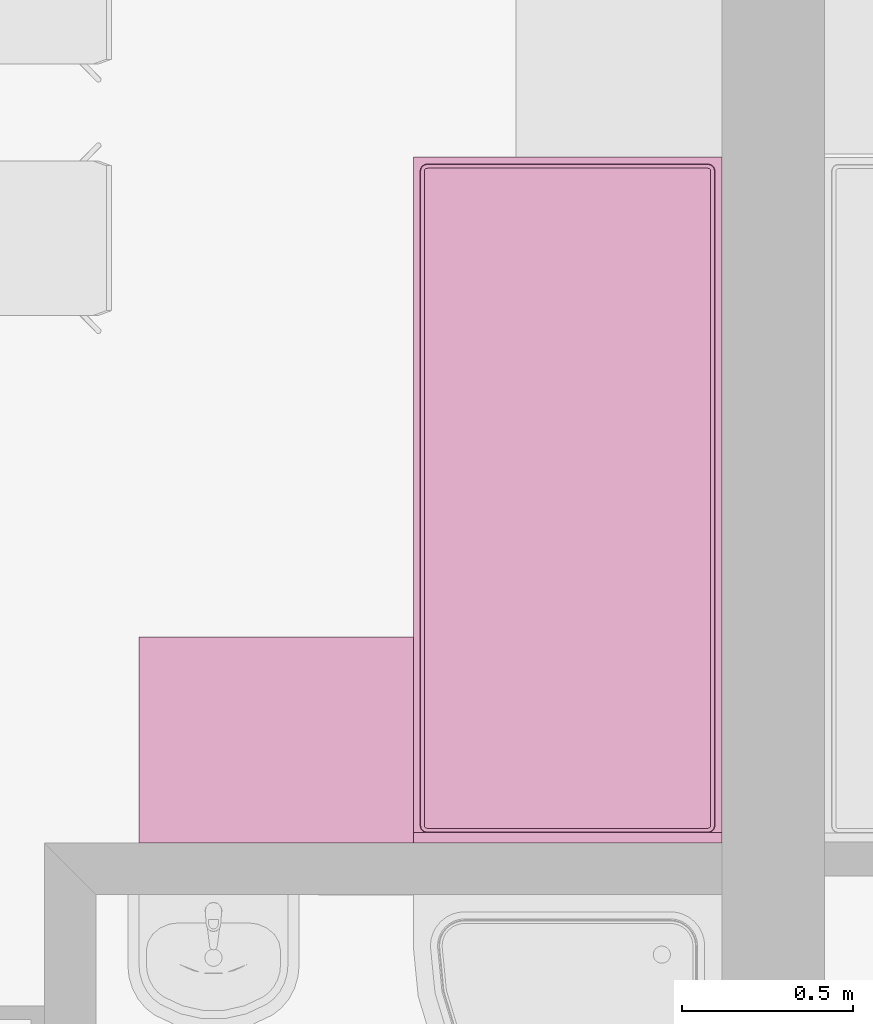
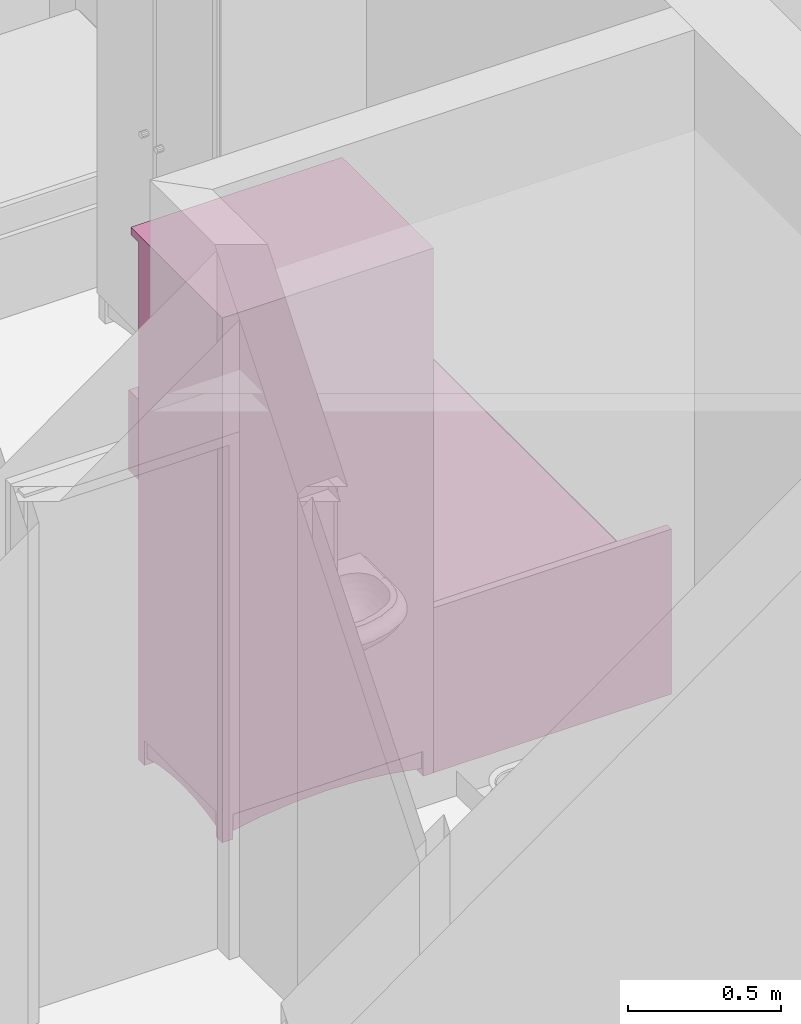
# One storey, part 136 of 172: 2 furnishings.
"""IFC2X3 building model written with IfcOpenShell, lengths in millimetres."""

from ifc_helpers import new_model, entity, si_unit, converted_unit, money_unit, direction, frame, origin_with_axes, place, context, subcontext, project, spatial, faceted_brep, source, transform, mapped, material, material_list, type_object, element, save


model = new_model("IFC2X3")

# Units and contexts
model_context = context("Model", 3, precision=1e-05, world=origin_with_axes(), true_north=direction((0.0, 1.0)))
body_context = subcontext(model_context, "Body", "Model", "MODEL_VIEW")
ifc_project = project(units=[si_unit("LENGTHUNIT", "METRE", prefix="MILLI"), si_unit("AREAUNIT", "SQUARE_METRE"), si_unit("VOLUMEUNIT", "CUBIC_METRE"), converted_unit("PLANEANGLEUNIT", "DEGREE", entity("IfcPlaneAngleMeasure", 0.0174532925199), si_unit("PLANEANGLEUNIT", "RADIAN"), dimensions=[0, 0, 0, 0, 0, 0, 0]), si_unit("SOLIDANGLEUNIT", "STERADIAN"), money_unit("USD"), converted_unit("TIMEUNIT", "Year", entity("IfcTimeMeasure", 31556926.0), si_unit("TIMEUNIT", "SECOND"), dimensions=[0, 0, 0, 0, 0, 0, 0]), si_unit("MASSUNIT", "GRAM"), si_unit("THERMODYNAMICTEMPERATUREUNIT", "DEGREE_CELSIUS"), si_unit("LUMINOUSINTENSITYUNIT", "LUMEN")], contexts=[model_context])

# Site, building, storey
site_placement = place(None, origin_with_axes())
site = spatial("IfcSite", under=ifc_project, at=site_placement, Name="Site", CompositionType="ELEMENT")
building_placement = place(site_placement, origin_with_axes())
building = spatial("IfcBuilding", under=site, at=building_placement, Name="Building", CompositionType="ELEMENT")
storey_placement = place(building_placement, frame((0.0, 0.0, 3200.0), z_axis=(0.0, 0.0, 1.0), x_axis=(1.0, 0.0, 0.0)))
storey = spatial("IfcBuildingStorey", under=building, at=storey_placement, Name="3KORRUS", CompositionType="ELEMENT", Elevation=3200.0)

# Furnishings
ifc_material = material(Name="Background")
ifc_material_list = material_list([ifc_material])
furnishing_element_type_1 = type_object("IfcFurnishingElementType", Name="Cupboard 19")
shared_shape_1 = source(origin_with_axes(), body_context, "Body", "Brep", [
    faceted_brep([(-780.0, 600.0, 120.0), (-780.0, 580.0, 120.0), (-780.0, 580.0, 2050.0), (-780.0, 600.0, 2050.0), (-20.0, 600.0, 120.0), (-20.0, 580.0, 120.0), (-20.0, 580.0, 2050.0), (-20.0, 600.0, 2050.0)], [[[0, 1, 2, 3]], [[0, 4, 5, 1]], [[1, 5, 6, 2]], [[3, 2, 6, 7]], [[4, 0, 3, 7]], [[5, 4, 7, 6]]]),
    faceted_brep([(0.0, 50.0, 100.0), (-20.0, 50.0, 100.0), (-20.0, 600.0, 100.0), (0.0, 600.0, 100.0), (0.0, 50.0, 2070.0), (-20.0, 50.0, 2070.0), (-20.0, 600.0, 2070.0), (0.0, 600.0, 2070.0)], [[[0, 1, 2, 3]], [[1, 0, 4, 5]], [[2, 1, 5, 6]], [[3, 2, 6, 7]], [[0, 3, 7, 4]], [[5, 4, 7, 6]]]),
    faceted_brep([(-780.0, 50.0, 100.0), (-800.0, 50.0, 100.0), (-800.0, 600.0, 100.0), (-780.0, 600.0, 100.0), (-780.0, 50.0, 2070.0), (-800.0, 50.0, 2070.0), (-800.0, 600.0, 2070.0), (-780.0, 600.0, 2070.0)], [[[0, 1, 2, 3]], [[1, 0, 4, 5]], [[2, 1, 5, 6]], [[3, 2, 6, 7]], [[0, 3, 7, 4]], [[5, 4, 7, 6]]]),
    faceted_brep([(-20.0, 50.0, 100.0), (-780.0, 50.0, 100.0), (-780.0, 600.0, 100.0), (-20.0, 600.0, 100.0), (-20.0, 50.0, 120.0), (-780.0, 50.0, 120.0), (-780.0, 600.0, 120.0), (-20.0, 600.0, 120.0)], [[[0, 1, 2, 3]], [[1, 0, 4, 5]], [[2, 1, 5, 6]], [[3, 2, 6, 7]], [[0, 3, 7, 4]], [[5, 4, 7, 6]]]),
    faceted_brep([(-20.0, 50.0, 2050.0), (-780.0, 50.0, 2050.0), (-780.0, 600.0, 2050.0), (-20.0, 600.0, 2050.0), (-20.0, 50.0, 2070.0), (-780.0, 50.0, 2070.0), (-780.0, 600.0, 2070.0), (-20.0, 600.0, 2070.0)], [[[0, 1, 2, 3]], [[1, 0, 4, 5]], [[2, 1, 5, 6]], [[3, 2, 6, 7]], [[0, 3, 7, 4]], [[5, 4, 7, 6]]]),
    faceted_brep([(0.0, 600.0, 2070.0), (0.0, 600.0, 2100.0), (0.0, 0.0, 2100.0), (0.0, 0.0, 2070.0), (-800.0, 600.0, 2070.0), (-800.0, 600.0, 2100.0), (-800.0, 0.0, 2100.0), (-800.0, 0.0, 2070.0)], [[[0, 1, 2, 3]], [[4, 5, 1, 0]], [[1, 5, 6, 2]], [[3, 2, 6, 7]], [[0, 3, 7, 4]], [[7, 6, 5, 4]]]),
    faceted_brep([(-760.0, 590.0, 25.0), (-640.962, 590.0, 45.8), (-640.962, 570.0, 45.8), (-760.0, 570.0, 25.0), (-760.0, 590.0, 100.0), (-40.0, 590.0, 100.0), (-40.0, 590.0, 25.0), (-159.038, 590.0, 45.8), (-279.23, 590.0, 58.32), (-400.0, 590.0, 62.5), (-520.77, 590.0, 58.32), (-520.77, 570.0, 58.32), (-400.0, 570.0, 62.5), (-279.23, 570.0, 58.32), (-159.038, 570.0, 45.8), (-40.0, 570.0, 25.0), (-40.0, 570.0, 100.0), (-760.0, 570.0, 100.0)], [[[0, 1, 2, 3]], [[0, 4, 5, 6, 7, 8, 9, 10, 1]], [[1, 10, 11, 2]], [[3, 2, 11, 12, 13, 14, 15, 16, 17]], [[4, 0, 3, 17]], [[5, 4, 17, 16]], [[6, 5, 16, 15]], [[7, 6, 15, 14]], [[8, 7, 14, 13]], [[9, 8, 13, 12]], [[10, 9, 12, 11]]]),
    faceted_brep([(-760.0, 80.0, 25.0), (-640.962, 80.0, 45.8), (-640.962, 60.0, 45.8), (-760.0, 60.0, 25.0), (-760.0, 80.0, 100.0), (-40.0, 80.0, 100.0), (-40.0, 80.0, 25.0), (-159.038, 80.0, 45.8), (-279.23, 80.0, 58.32), (-400.0, 80.0, 62.5), (-520.77, 80.0, 58.32), (-520.77, 60.0, 58.32), (-400.0, 60.0, 62.5), (-279.23, 60.0, 58.32), (-159.038, 60.0, 45.8), (-40.0, 60.0, 25.0), (-40.0, 60.0, 100.0), (-760.0, 60.0, 100.0)], [[[0, 1, 2, 3]], [[0, 4, 5, 6, 7, 8, 9, 10, 1]], [[1, 10, 11, 2]], [[3, 2, 11, 12, 13, 14, 15, 16, 17]], [[4, 0, 3, 17]], [[5, 4, 17, 16]], [[6, 5, 16, 15]], [[7, 6, 15, 14]], [[8, 7, 14, 13]], [[9, 8, 13, 12]], [[10, 9, 12, 11]]]),
    faceted_brep([(-790.0, 90.0, 25.0), (-790.0, 141.266, 38.072), (-770.0, 141.266, 38.072), (-770.0, 90.0, 25.0), (-790.0, 90.0, 100.0), (-790.0, 560.0, 100.0), (-790.0, 560.0, 25.0), (-790.0, 508.734, 38.072), (-790.0, 456.752, 47.92), (-790.0, 404.257, 54.508), (-790.0, 351.453, 57.808), (-790.0, 298.547, 57.808), (-790.0, 245.743, 54.508), (-790.0, 193.248, 47.92), (-770.0, 193.248, 47.92), (-770.0, 245.743, 54.508), (-770.0, 298.547, 57.808), (-770.0, 351.453, 57.808), (-770.0, 404.257, 54.508), (-770.0, 456.752, 47.92), (-770.0, 508.734, 38.072), (-770.0, 560.0, 25.0), (-770.0, 560.0, 100.0), (-770.0, 90.0, 100.0)], [[[0, 1, 2, 3]], [[0, 4, 5, 6, 7, 8, 9, 10, 11, 12, 13, 1]], [[1, 13, 14, 2]], [[3, 2, 14, 15, 16, 17, 18, 19, 20, 21, 22, 23]], [[4, 0, 3, 23]], [[5, 4, 23, 22]], [[6, 5, 22, 21]], [[7, 6, 21, 20]], [[8, 7, 20, 19]], [[9, 8, 19, 18]], [[10, 9, 18, 17]], [[11, 10, 17, 16]], [[12, 11, 16, 15]], [[13, 12, 15, 14]]]),
    faceted_brep([(-30.0, 90.0, 25.0), (-30.0, 141.266, 38.072), (-10.0, 141.266, 38.072), (-10.0, 90.0, 25.0), (-30.0, 90.0, 100.0), (-30.0, 560.0, 100.0), (-30.0, 560.0, 25.0), (-30.0, 508.734, 38.072), (-30.0, 456.752, 47.92), (-30.0, 404.257, 54.508), (-30.0, 351.453, 57.808), (-30.0, 298.547, 57.808), (-30.0, 245.743, 54.508), (-30.0, 193.248, 47.92), (-10.0, 193.248, 47.92), (-10.0, 245.743, 54.508), (-10.0, 298.547, 57.808), (-10.0, 351.453, 57.808), (-10.0, 404.257, 54.508), (-10.0, 456.752, 47.92), (-10.0, 508.734, 38.072), (-10.0, 560.0, 25.0), (-10.0, 560.0, 100.0), (-10.0, 90.0, 100.0)], [[[0, 1, 2, 3]], [[0, 4, 5, 6, 7, 8, 9, 10, 11, 12, 13, 1]], [[1, 13, 14, 2]], [[3, 2, 14, 15, 16, 17, 18, 19, 20, 21, 22, 23]], [[4, 0, 3, 23]], [[5, 4, 23, 22]], [[6, 5, 22, 21]], [[7, 6, 21, 20]], [[8, 7, 20, 19]], [[9, 8, 19, 18]], [[10, 9, 18, 17]], [[11, 10, 17, 16]], [[12, 11, 16, 15]], [[13, 12, 15, 14]]]),
    faceted_brep([(-760.0, 560.0, 0.0), (-760.0, 600.0, 0.0), (-760.0, 600.0, 100.0), (-760.0, 560.0, 100.0), (-800.0, 560.0, 0.0), (-800.0, 600.0, 0.0), (-800.0, 600.0, 100.0), (-800.0, 560.0, 100.0)], [[[0, 1, 2, 3]], [[0, 4, 5, 1]], [[1, 5, 6, 2]], [[3, 2, 6, 7]], [[4, 0, 3, 7]], [[5, 4, 7, 6]]]),
    faceted_brep([(0.0, 560.0, 0.0), (0.0, 600.0, 0.0), (0.0, 600.0, 100.0), (0.0, 560.0, 100.0), (-40.0, 560.0, 0.0), (-40.0, 600.0, 0.0), (-40.0, 600.0, 100.0), (-40.0, 560.0, 100.0)], [[[0, 1, 2, 3]], [[0, 4, 5, 1]], [[1, 5, 6, 2]], [[3, 2, 6, 7]], [[4, 0, 3, 7]], [[5, 4, 7, 6]]]),
    faceted_brep([(-760.0, 50.0, 0.0), (-760.0, 90.0, 0.0), (-760.0, 90.0, 100.0), (-760.0, 50.0, 100.0), (-800.0, 50.0, 0.0), (-800.0, 90.0, 0.0), (-800.0, 90.0, 100.0), (-800.0, 50.0, 100.0)], [[[0, 1, 2, 3]], [[0, 4, 5, 1]], [[1, 5, 6, 2]], [[3, 2, 6, 7]], [[4, 0, 3, 7]], [[5, 4, 7, 6]]]),
    faceted_brep([(0.0, 50.0, 0.0), (0.0, 90.0, 0.0), (0.0, 90.0, 100.0), (0.0, 50.0, 100.0), (-40.0, 50.0, 0.0), (-40.0, 90.0, 0.0), (-40.0, 90.0, 100.0), (-40.0, 50.0, 100.0)], [[[0, 1, 2, 3]], [[0, 4, 5, 1]], [[1, 5, 6, 2]], [[3, 2, 6, 7]], [[4, 0, 3, 7]], [[5, 4, 7, 6]]]),
    faceted_brep([(-780.0, 580.0, 587.5), (-780.0, 50.0, 587.5), (-780.0, 50.0, 607.5), (-780.0, 580.0, 607.5), (-20.0, 580.0, 587.5), (-20.0, 50.0, 587.5), (-20.0, 50.0, 607.5), (-20.0, 580.0, 607.5)], [[[0, 1, 2, 3]], [[0, 4, 5, 1]], [[1, 5, 6, 2]], [[3, 2, 6, 7]], [[4, 0, 3, 7]], [[5, 4, 7, 6]]]),
    faceted_brep([(-780.0, 580.0, 1075.0), (-780.0, 50.0, 1075.0), (-780.0, 50.0, 1095.0), (-780.0, 580.0, 1095.0), (-20.0, 580.0, 1075.0), (-20.0, 50.0, 1075.0), (-20.0, 50.0, 1095.0), (-20.0, 580.0, 1095.0)], [[[0, 1, 2, 3]], [[0, 4, 5, 1]], [[1, 5, 6, 2]], [[3, 2, 6, 7]], [[4, 0, 3, 7]], [[5, 4, 7, 6]]]),
    faceted_brep([(-780.0, 580.0, 1562.5), (-780.0, 50.0, 1562.5), (-780.0, 50.0, 1582.5), (-780.0, 580.0, 1582.5), (-20.0, 580.0, 1562.5), (-20.0, 50.0, 1562.5), (-20.0, 50.0, 1582.5), (-20.0, 580.0, 1582.5)], [[[0, 1, 2, 3]], [[0, 4, 5, 1]], [[1, 5, 6, 2]], [[3, 2, 6, 7]], [[4, 0, 3, 7]], [[5, 4, 7, 6]]]),
    faceted_brep([(-789.5, 50.0, 110.5), (-789.5, 50.0, 2059.5), (-400.5, 50.0, 2059.5), (-400.5, 50.0, 110.5), (-789.5, 40.0, 110.5), (-789.5, 40.0, 2059.5), (-400.5, 40.0, 2059.5), (-400.5, 40.0, 110.5), (-779.5, 30.0, 120.5), (-779.5, 30.0, 2049.5), (-410.5, 30.0, 2049.5), (-410.5, 30.0, 120.5)], [[[0, 1, 2, 3]], [[1, 0, 4, 5]], [[2, 1, 5, 6]], [[3, 2, 6, 7]], [[0, 3, 7, 4]], [[5, 4, 8, 9]], [[6, 5, 9, 10]], [[7, 6, 10, 11]], [[4, 7, 11, 8]], [[10, 9, 8, 11]]]),
    faceted_brep([(-399.5, 50.0, 110.5), (-399.5, 50.0, 2059.5), (-10.5, 50.0, 2059.5), (-10.5, 50.0, 110.5), (-399.5, 40.0, 110.5), (-399.5, 40.0, 2059.5), (-10.5, 40.0, 2059.5), (-10.5, 40.0, 110.5), (-389.5, 30.0, 120.5), (-389.5, 30.0, 2049.5), (-20.5, 30.0, 2049.5), (-20.5, 30.0, 120.5)], [[[0, 1, 2, 3]], [[1, 0, 4, 5]], [[2, 1, 5, 6]], [[3, 2, 6, 7]], [[0, 3, 7, 4]], [[5, 4, 8, 9]], [[6, 5, 9, 10]], [[7, 6, 10, 11]], [[4, 7, 11, 8]], [[10, 9, 8, 11]]]),
    faceted_brep([(-339.608, 30.0, 954.0), (-344.0, 30.0, 949.608), (-350.0, 30.0, 948.0), (-356.0, 30.0, 949.608), (-360.392, 30.0, 954.0), (-362.0, 30.0, 960.0), (-360.392, 30.0, 966.0), (-356.0, 30.0, 970.392), (-350.0, 30.0, 972.0), (-344.0, 30.0, 970.392), (-339.608, 30.0, 966.0), (-338.0, 30.0, 960.0), (-339.608, 5.0, 954.0), (-344.0, 5.0, 949.608), (-350.0, 5.0, 948.0), (-356.0, 5.0, 949.608), (-360.392, 5.0, 954.0), (-362.0, 5.0, 960.0), (-360.392, 5.0, 966.0), (-356.0, 5.0, 970.392), (-350.0, 5.0, 972.0), (-344.0, 5.0, 970.392), (-339.608, 5.0, 966.0), (-338.0, 5.0, 960.0)], [[[0, 1, 2, 3, 4, 5, 6, 7, 8, 9, 10, 11]], [[1, 0, 12, 13]], [[2, 1, 13, 14]], [[3, 2, 14, 15]], [[4, 3, 15, 16]], [[5, 4, 16, 17]], [[6, 5, 17, 18]], [[7, 6, 18, 19]], [[8, 7, 19, 20]], [[9, 8, 20, 21]], [[10, 9, 21, 22]], [[11, 10, 22, 23]], [[0, 11, 23, 12]], [[12, 23, 22, 21, 20, 19, 18, 17, 16, 15, 14, 13]]]),
    faceted_brep([(-460.392, 30.0, 954.0), (-462.0, 30.0, 960.0), (-460.392, 30.0, 966.0), (-456.0, 30.0, 970.392), (-450.0, 30.0, 972.0), (-444.0, 30.0, 970.392), (-439.608, 30.0, 966.0), (-438.0, 30.0, 960.0), (-439.608, 30.0, 954.0), (-444.0, 30.0, 949.608), (-450.0, 30.0, 948.0), (-456.0, 30.0, 949.608), (-460.392, 5.0, 954.0), (-462.0, 5.0, 960.0), (-460.392, 5.0, 966.0), (-456.0, 5.0, 970.392), (-450.0, 5.0, 972.0), (-444.0, 5.0, 970.392), (-439.608, 5.0, 966.0), (-438.0, 5.0, 960.0), (-439.608, 5.0, 954.0), (-444.0, 5.0, 949.608), (-450.0, 5.0, 948.0), (-456.0, 5.0, 949.608)], [[[0, 1, 2, 3, 4, 5, 6, 7, 8, 9, 10, 11]], [[0, 12, 13, 1]], [[1, 13, 14, 2]], [[2, 14, 15, 3]], [[3, 15, 16, 4]], [[4, 16, 17, 5]], [[5, 17, 18, 6]], [[6, 18, 19, 7]], [[7, 19, 20, 8]], [[8, 20, 21, 9]], [[9, 21, 22, 10]], [[10, 22, 23, 11]], [[11, 23, 12, 0]], [[12, 23, 22, 21, 20, 19, 18, 17, 16, 15, 14, 13]]]),
])
furnishing_1_placement = place(storey_placement, frame((-1990.29670331, -8616.37850445, 0.0), z_axis=(0.0, 0.0, 1.0), x_axis=(-1.0, 0.0, 0.0)))
element("IfcFurnishingElement", 1, at=furnishing_1_placement, inside=storey, type_object=furnishing_element_type_1, material=ifc_material_list, Name="FU - 014", context=body_context, shape_type="MappedRepresentation", body=[
    mapped(shared_shape_1, transform((0.0, 0.0, 0.0))),
])
furnishing_element_type_2 = type_object("IfcFurnishingElementType", Name="Bed 19")
shared_shape_2 = source(origin_with_axes(), body_context, "Body", "Brep", [
    faceted_brep([(-900.0, 1970.0, 0.0), (-900.0, 2000.0, 0.0), (0.0, 2000.0, 0.0), (0.0, 1970.0, 0.0), (-900.0, 1970.0, 660.0), (-900.0, 2000.0, 660.0), (0.0, 2000.0, 660.0), (0.0, 1970.0, 660.0)], [[[0, 1, 2, 3]], [[0, 4, 5, 1]], [[1, 5, 6, 2]], [[2, 6, 7, 3]], [[3, 7, 4, 0]], [[7, 6, 5, 4]]]),
    faceted_brep([(-900.0, 0.0, 0.0), (-900.0, 1970.0, 0.0), (0.0, 1970.0, 0.0), (0.0, 0.0, 0.0), (-900.0, 0.0, 320.0), (-900.0, 1970.0, 320.0), (0.0, 1970.0, 320.0), (0.0, 0.0, 320.0)], [[[0, 1, 2, 3]], [[0, 4, 5, 1]], [[1, 5, 6, 2]], [[2, 6, 7, 3]], [[3, 7, 4, 0]], [[7, 6, 5, 4]]]),
    faceted_brep([(-905.0, 10.0, 30.0), (-905.0, 695.0, 30.0), (-900.0, 695.0, 30.0), (-900.0, 10.0, 30.0), (-905.0, 10.0, 290.0), (-905.0, 695.0, 290.0), (-900.0, 695.0, 290.0), (-900.0, 10.0, 290.0)], [[[0, 1, 2, 3]], [[0, 4, 5, 1]], [[1, 5, 6, 2]], [[2, 6, 7, 3]], [[3, 7, 4, 0]], [[7, 6, 5, 4]]]),
    faceted_brep([(-935.0, 307.5, 150.0), (-935.0, 397.5, 150.0), (-905.0, 397.5, 150.0), (-905.0, 307.5, 150.0), (-935.0, 307.5, 170.0), (-935.0, 397.5, 170.0), (-905.0, 397.5, 170.0), (-905.0, 307.5, 170.0)], [[[0, 1, 2, 3]], [[0, 4, 5, 1]], [[1, 5, 6, 2]], [[2, 6, 7, 3]], [[3, 7, 4, 0]], [[7, 6, 5, 4]]]),
    faceted_brep([(-905.0, 705.0, 30.0), (-905.0, 1390.0, 30.0), (-900.0, 1390.0, 30.0), (-900.0, 705.0, 30.0), (-905.0, 705.0, 290.0), (-905.0, 1390.0, 290.0), (-900.0, 1390.0, 290.0), (-900.0, 705.0, 290.0)], [[[0, 1, 2, 3]], [[0, 4, 5, 1]], [[1, 5, 6, 2]], [[2, 6, 7, 3]], [[3, 7, 4, 0]], [[7, 6, 5, 4]]]),
    faceted_brep([(-935.0, 1002.5, 150.0), (-935.0, 1092.5, 150.0), (-905.0, 1092.5, 150.0), (-905.0, 1002.5, 150.0), (-935.0, 1002.5, 170.0), (-935.0, 1092.5, 170.0), (-905.0, 1092.5, 170.0), (-905.0, 1002.5, 170.0)], [[[0, 1, 2, 3]], [[0, 4, 5, 1]], [[1, 5, 6, 2]], [[2, 6, 7, 3]], [[3, 7, 4, 0]], [[7, 6, 5, 4]]]),
    faceted_brep([(-20.0, 40.0, 350.0), (-21.522, 32.346, 350.0), (-25.858, 25.858, 350.0), (-32.346, 21.522, 350.0), (-40.0, 20.0, 350.0), (-860.0, 20.0, 350.0), (-867.654, 21.522, 350.0), (-874.142, 25.858, 350.0), (-878.478, 32.346, 350.0), (-880.0, 40.0, 350.0), (-880.0, 1950.0, 350.0), (-878.478, 1957.654, 350.0), (-874.142, 1964.142, 350.0), (-867.654, 1968.478, 350.0), (-860.0, 1970.0, 350.0), (-40.0, 1970.0, 350.0), (-32.346, 1968.478, 350.0), (-25.858, 1964.142, 350.0), (-21.522, 1957.654, 350.0), (-20.0, 1950.0, 350.0), (-20.0, 40.0, 420.0), (-21.522, 32.346, 420.0), (-25.858, 25.858, 420.0), (-32.346, 21.522, 420.0), (-40.0, 20.0, 420.0), (-860.0, 20.0, 420.0), (-867.654, 21.522, 420.0), (-874.142, 25.858, 420.0), (-878.478, 32.346, 420.0), (-880.0, 40.0, 420.0), (-880.0, 1950.0, 420.0), (-878.478, 1957.654, 420.0), (-874.142, 1964.142, 420.0), (-867.654, 1968.478, 420.0), (-860.0, 1970.0, 420.0), (-40.0, 1970.0, 420.0), (-32.346, 1968.478, 420.0), (-25.858, 1964.142, 420.0), (-21.522, 1957.654, 420.0), (-20.0, 1950.0, 420.0), (-21.522, 40.15, 427.654), (-22.956, 32.94, 427.654), (-26.955, 26.955, 427.654), (-32.94, 22.956, 427.654), (-40.15, 21.522, 427.654), (-859.85, 21.522, 427.654), (-867.06, 22.956, 427.654), (-873.045, 26.955, 427.654), (-877.044, 32.94, 427.654), (-878.478, 40.15, 427.654), (-878.478, 1949.85, 427.654), (-877.044, 1957.06, 427.654), (-873.045, 1963.045, 427.654), (-867.06, 1967.044, 427.654), (-859.85, 1968.478, 427.654), (-40.15, 1968.478, 427.654), (-32.94, 1967.044, 427.654), (-26.955, 1963.045, 427.654), (-22.956, 1957.06, 427.654), (-21.522, 1949.85, 427.654), (-32.346, 41.216, 438.478), (-33.152, 37.164, 438.478), (-34.759, 34.759, 438.478), (-37.164, 33.152, 438.478), (-41.216, 32.346, 438.478), (-858.784, 32.346, 438.478), (-862.836, 33.152, 438.478), (-865.241, 34.759, 438.478), (-866.848, 37.164, 438.478), (-867.654, 41.216, 438.478), (-867.654, 1948.784, 438.478), (-866.848, 1952.836, 438.478), (-865.241, 1955.241, 438.478), (-862.836, 1956.848, 438.478), (-858.784, 1957.654, 438.478), (-41.216, 1957.654, 438.478), (-37.164, 1956.848, 438.478), (-34.759, 1955.241, 438.478), (-33.152, 1952.836, 438.478), (-32.346, 1948.784, 438.478), (-40.0, 41.97, 440.0), (-40.327, 40.327, 440.0), (-40.0, 40.0, 439.924), (-41.97, 40.0, 440.0), (-858.03, 40.0, 440.0), (-859.673, 40.327, 440.0), (-860.0, 40.0, 439.924), (-860.0, 41.97, 440.0), (-860.0, 1948.03, 440.0), (-859.673, 1949.673, 440.0), (-860.0, 1950.0, 439.924), (-858.03, 1950.0, 440.0), (-41.97, 1950.0, 440.0), (-40.327, 1949.673, 440.0), (-40.0, 1950.0, 439.924), (-40.0, 1948.03, 440.0)], [[[0, 1, 2, 3, 4, 5, 6, 7, 8, 9, 10, 11, 12, 13, 14, 15, 16, 17, 18, 19]], [[0, 20, 21, 1]], [[1, 21, 22, 2]], [[2, 22, 23, 3]], [[3, 23, 24, 4]], [[4, 24, 25, 5]], [[5, 25, 26, 6]], [[6, 26, 27, 7]], [[7, 27, 28, 8]], [[8, 28, 29, 9]], [[9, 29, 30, 10]], [[10, 30, 31, 11]], [[11, 31, 32, 12]], [[12, 32, 33, 13]], [[13, 33, 34, 14]], [[14, 34, 35, 15]], [[15, 35, 36, 16]], [[16, 36, 37, 17]], [[17, 37, 38, 18]], [[18, 38, 39, 19]], [[19, 39, 20, 0]], [[20, 40, 41, 21]], [[21, 41, 42, 22]], [[22, 42, 43, 23]], [[23, 43, 44, 24]], [[24, 44, 45, 25]], [[25, 45, 46, 26]], [[26, 46, 47, 27]], [[27, 47, 48, 28]], [[28, 48, 49, 29]], [[29, 49, 50, 30]], [[30, 50, 51, 31]], [[31, 51, 52, 32]], [[32, 52, 53, 33]], [[33, 53, 54, 34]], [[34, 54, 55, 35]], [[35, 55, 56, 36]], [[36, 56, 57, 37]], [[37, 57, 58, 38]], [[38, 58, 59, 39]], [[39, 59, 40, 20]], [[40, 60, 61, 41]], [[41, 61, 62, 42]], [[42, 62, 63, 43]], [[43, 63, 64, 44]], [[44, 64, 65, 45]], [[45, 65, 66, 46]], [[46, 66, 67, 47]], [[47, 67, 68, 48]], [[48, 68, 69, 49]], [[49, 69, 70, 50]], [[50, 70, 71, 51]], [[51, 71, 72, 52]], [[52, 72, 73, 53]], [[53, 73, 74, 54]], [[54, 74, 75, 55]], [[55, 75, 76, 56]], [[56, 76, 77, 57]], [[57, 77, 78, 58]], [[58, 78, 79, 59]], [[59, 79, 60, 40]], [[60, 80, 81, 82, 61]], [[61, 82, 62]], [[62, 82, 63]], [[63, 82, 81, 83, 64]], [[64, 83, 84, 65]], [[65, 84, 85, 86, 66]], [[66, 86, 67]], [[67, 86, 68]], [[68, 86, 85, 87, 69]], [[69, 87, 88, 70]], [[70, 88, 89, 90, 71]], [[71, 90, 72]], [[72, 90, 73]], [[73, 90, 89, 91, 74]], [[74, 91, 92, 75]], [[75, 92, 93, 94, 76]], [[76, 94, 77]], [[77, 94, 78]], [[78, 94, 93, 95, 79]], [[79, 95, 80, 60]], [[95, 93, 92, 91, 89, 88, 87, 85, 84, 83, 81, 80]]]),
    faceted_brep([(-20.0, 40.0, 350.0), (-20.0, 1950.0, 350.0), (-21.522, 1957.654, 350.0), (-25.858, 1964.142, 350.0), (-32.346, 1968.478, 350.0), (-40.0, 1970.0, 350.0), (-860.0, 1970.0, 350.0), (-867.654, 1968.478, 350.0), (-874.142, 1964.142, 350.0), (-878.478, 1957.654, 350.0), (-880.0, 1950.0, 350.0), (-880.0, 40.0, 350.0), (-878.478, 32.346, 350.0), (-874.142, 25.858, 350.0), (-867.654, 21.522, 350.0), (-860.0, 20.0, 350.0), (-40.0, 20.0, 350.0), (-32.346, 21.522, 350.0), (-25.858, 25.858, 350.0), (-21.522, 32.346, 350.0), (-20.0, 40.0, 320.0), (-20.0, 1950.0, 320.0), (-21.522, 1957.654, 320.0), (-25.858, 1964.142, 320.0), (-32.346, 1968.478, 320.0), (-40.0, 1970.0, 320.0), (-860.0, 1970.0, 320.0), (-867.654, 1968.478, 320.0), (-874.142, 1964.142, 320.0), (-878.478, 1957.654, 320.0), (-880.0, 1950.0, 320.0), (-880.0, 40.0, 320.0), (-878.478, 32.346, 320.0), (-874.142, 25.858, 320.0), (-867.654, 21.522, 320.0), (-860.0, 20.0, 320.0), (-40.0, 20.0, 320.0), (-32.346, 21.522, 320.0), (-25.858, 25.858, 320.0), (-21.522, 32.346, 320.0)], [[[0, 1, 2, 3, 4, 5, 6, 7, 8, 9, 10, 11, 12, 13, 14, 15, 16, 17, 18, 19]], [[1, 0, 20, 21]], [[2, 1, 21, 22]], [[3, 2, 22, 23]], [[4, 3, 23, 24]], [[5, 4, 24, 25]], [[6, 5, 25, 26]], [[7, 6, 26, 27]], [[8, 7, 27, 28]], [[9, 8, 28, 29]], [[10, 9, 29, 30]], [[11, 10, 30, 31]], [[12, 11, 31, 32]], [[13, 12, 32, 33]], [[14, 13, 33, 34]], [[15, 14, 34, 35]], [[16, 15, 35, 36]], [[17, 16, 36, 37]], [[18, 17, 37, 38]], [[19, 18, 38, 39]], [[0, 19, 39, 20]], [[20, 39, 38, 37, 36, 35, 34, 33, 32, 31, 30, 29, 28, 27, 26, 25, 24, 23, 22, 21]]]),
])
furnishing_2_placement = place(storey_placement, frame((-1190.29670331, -7216.37850445, 0.0), z_axis=(0.0, 0.0, 1.0), x_axis=(-1.0, 0.0, 0.0)))
element("IfcFurnishingElement", 2, at=furnishing_2_placement, inside=storey, type_object=furnishing_element_type_2, material=ifc_material_list, Name="FU - 013", context=body_context, shape_type="MappedRepresentation", body=[
    mapped(shared_shape_2, transform((0.0, 0.0, 0.0))),
])

save(model, "model.ifc")
